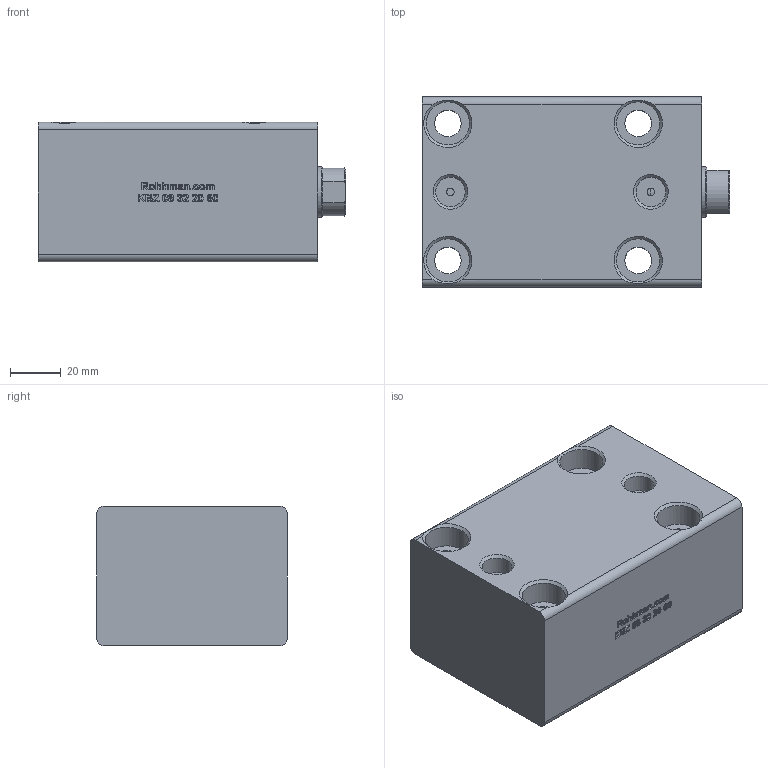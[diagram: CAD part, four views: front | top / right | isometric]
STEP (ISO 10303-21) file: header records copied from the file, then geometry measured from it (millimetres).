
FILE_DESCRIPTION(/* description */ (''),/* implementation_level */ '2;1');
FILE_NAME(/* name */ 'KBZ_08_32_20_60_WEB.step',/* time_stamp */ '2023-09-04T08:58:10+03:00',/* author */ (''),/* organization */ (''),/* preprocessor_version */ 'ST-DEVELOPER v20',/* originating_system */ 'Autodesk Translation Framework v12.9.0.99',/* authorisation */ '');
FILE_SCHEMA (('AUTOMOTIVE_DESIGN { 1 0 10303 214 3 1 1 }'));
Length unit declared in the file: millimetre
Products named in the file (7): KBZ_08_32_20_100_TRACE_PART; KAPAK; KAPAK_1; GÖVDE; GÖVDE_1; Ø20_MİL; Ø20 mil
Assembly tree (6 placements, depth 3):
  KBZ_08_32_20_100_TRACE_PART
    KAPAK
      KAPAK_1
    GÖVDE
      GÖVDE_1
    Ø20_MİL
      Ø20 mil
Bounding box: 121 x 75 x 55 mm (x, y, z)
Volume: 396357.8 mm3; surface area: 60988.8 mm2
Topology: 3 solids, 3 shells, 585 faces, 1591 edges, 1054 vertices
Faces by surface type: bspline 366, plane 173, cylinder 28, cone 18
Full cylindrical faces by diameter (mm): 3 x4, 10.274 x1, 10.5 x4, 11.668 x2, 17 x4, 20 x1, 20.5 x1, 32 x1, 36 x2, 45 x2
Entity records: 22070 total; most frequent: CARTESIAN_POINT 9563, ORIENTED_EDGE 3182, EDGE_CURVE 1591, DIRECTION 1395, VERTEX_POINT 1054, LINE 767, VECTOR 767, B_SPLINE_CURVE_WITH_KNOTS 739
